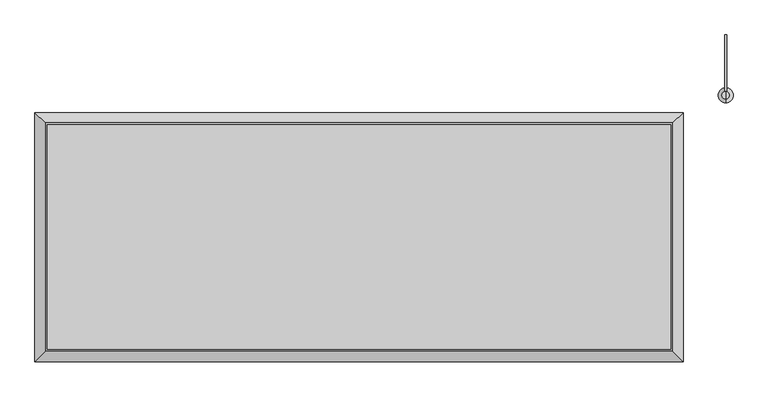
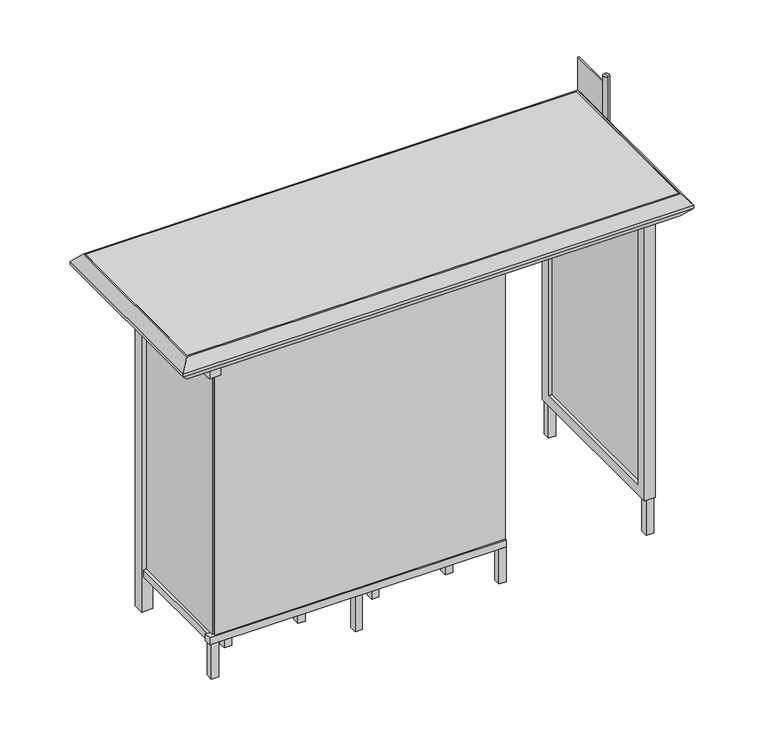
"""IFC4 building model written with IfcOpenShell, lengths in millimetres: geographic element geometry, 1454343723545-Bus stop : 1454343723545-Bus stop."""

from ifc_helpers import new_model, si_unit, point, frame, frame_2d, origin, origin_with_axes, place, context, project, spatial, polyline, circle_curve, trimmed, segment, composite_curve, outline, extrude, faceted_brep, source, transform, mapped, element, save
from ifc_brep_helpers import plane_surface, cylinder_surface, revolved_surface, advanced_brep


def geographic_element_cce4a2fd(model_context):
    return source(origin(), model_context, "Body", "SolidModel", [
        extrude(outline(polyline([(1957.5, 1680.3732439), (1967.5, 1680.3732439), (1967.5, 1380.3732439), (1957.5, 1380.3732439), (1957.5, 1680.3732439)])), frame((0.0, 0.0, 1784.6), z_axis=(0.0, 0.0, 1.0), x_axis=(1.0, 0.0, 0.0)), (0.0, 0.0, 1.0), 450.0),
        advanced_brep(
        [(1962.5, 1398.2604073, 500.0), (1962.5, 1398.2604073, 0.0), (1962.5, 1318.2604073, 0.0), (1962.5, 1318.2604073, 500.0), (1962.5, 1378.2604073, 534.6), (1962.5, 1338.2604073, 534.6), (1962.5, 1378.2604073, 2300.0), (1962.5, 1338.2604073, 2300.0), (1962.5, 1358.2604073, 2300.0), (1962.5, 1358.2604073, 0.0)],
        [
            (0, 1),
            (1, 2, circle_curve(frame((1962.5, 1358.2604073, 0.0), z_axis=(0.0, 0.0, 1.0), x_axis=(0.0, -1.0, 0.0)), 40.0)),
            (2, 3),
            (3, 0, circle_curve(frame((1962.5, 1358.2604073, 500.0), z_axis=(0.0, 0.0, -1.0), x_axis=(0.0, -1.0, 0.0)), 40.0)),
            (2, 1, circle_curve(frame((1962.5, 1358.2604073, 0.0), z_axis=(0.0, 0.0, 1.0), x_axis=(0.0, -1.0, 0.0)), 40.0)),
            (0, 3, circle_curve(frame((1962.5, 1358.2604073, 500.0), z_axis=(0.0, 0.0, -1.0), x_axis=(0.0, -1.0, 0.0)), 40.0)),
            (4, 0),
            (3, 5),
            (5, 4, circle_curve(frame((1962.5, 1358.2604073, 534.6), z_axis=(0.0, 0.0, -1.0), x_axis=(0.0, -1.0, 0.0)), 20.0)),
            (4, 5, circle_curve(frame((1962.5, 1358.2604073, 534.6), z_axis=(0.0, 0.0, -1.0), x_axis=(0.0, -1.0, 0.0)), 20.0)),
            (6, 4),
            (5, 7),
            (7, 6, circle_curve(frame((1962.5, 1358.2604073, 2300.0), z_axis=(0.0, 0.0, -1.0), x_axis=(0.0, -1.0, 0.0)), 20.0)),
            (6, 7, circle_curve(frame((1962.5, 1358.2604073, 2300.0), z_axis=(0.0, 0.0, -1.0), x_axis=(0.0, -1.0, 0.0)), 20.0)),
            (8, 6),
            (7, 8),
            (1, 9),
            (9, 2),
        ],
        [
            cylinder_surface(frame((1962.5, 1358.2604073, -120.0), z_axis=(0.0, 0.0, 1.0), x_axis=(0.0, -1.0, 0.0)), 40.0),
            revolved_surface(polyline([(1962.5, 1318.2604073, 500.0), (1962.5, 1338.2604073, 534.6)]), (1962.5, 1358.2604073, -120.0), (0.0, 0.0, 1.0)),
            cylinder_surface(frame((1962.5, 1358.2604073, -120.0), z_axis=(0.0, 0.0, 1.0), x_axis=(0.0, -1.0, 0.0)), 20.0),
            plane_surface(frame((1962.5, 1358.2604073, 2300.0), z_axis=(0.0, 0.0, 1.0), x_axis=(0.0, -1.0, 0.0))),
            plane_surface(frame((1962.5, 1358.2604073, 0.0), z_axis=(0.0, 0.0, -1.0), x_axis=(0.0, -1.0, 0.0))),
        ],
        [
            (0, [[1, 2, 3, 4]]),
            (0, [[-3, 5, -1, 6]]),
            (1, [[7, -4, 8, 9]]),
            (1, [[-8, -6, -7, 10]]),
            (2, [[11, -9, 12, 13]]),
            (2, [[-12, -10, -11, 14]]),
            (3, [[15, -13, 16]]),
            (3, [[-16, -14, -15]]),
            (4, [[17, 18, -2]]),
            (4, [[-18, -17, -5]]),
        ],
    ),
        faceted_brep([(1735.0, -65.0, 2310.0), (1735.0, 1265.0, 2310.0), (1680.0, 1210.0, 2380.0), (1680.0, -10.0, 2380.0), (1735.0, -65.0, 2290.0), (1735.0, 1265.0, 2290.0), (1680.0, -10.0, 2220.0), (1680.0, 1210.0, 2220.0), (1670.0, 0.0, 2380.0), (1670.0, 1200.0, 2380.0), (1670.0, 1200.0, 2220.0), (1670.0, 0.0, 2220.0), (-1727.5, 1265.0, 2310.0), (-1672.5, 1210.0, 2380.0), (-1727.5, 1265.0, 2290.0), (-1672.5, 1210.0, 2220.0), (-1662.5, 1200.0, 2380.0), (-1662.5, 1200.0, 2220.0), (-1727.5, -65.0, 2310.0), (-1672.5, -10.0, 2380.0), (-1727.5, -65.0, 2290.0), (-1672.5, -10.0, 2220.0), (-1662.5, 0.0, 2380.0), (-1662.5, 0.0, 2220.0)], [[[0, 1, 2, 3]], [[4, 5, 1, 0]], [[6, 7, 5, 4]], [[8, 9, 10, 11]], [[1, 12, 13, 2]], [[5, 14, 12, 1]], [[7, 15, 14, 5]], [[9, 16, 17, 10]], [[12, 18, 19, 13]], [[14, 20, 18, 12]], [[15, 21, 20, 14]], [[16, 22, 23, 17]], [[18, 0, 3, 19]], [[20, 4, 0, 18]], [[21, 6, 4, 20]], [[7, 6, 21, 15], [11, 10, 17, 23]], [[22, 8, 11, 23]], [[3, 2, 13, 19], [9, 8, 22, 16]]]),
        extrude(outline(polyline([(-1662.5, 1200.0), (1670.0, 1200.0), (1670.0, 0.0), (-1662.5, 0.0), (-1662.5, 1200.0)])), frame((0.0, 0.0, 2220.0), z_axis=(0.0, 0.0, 1.0), x_axis=(1.0, 0.0, 0.0)), (0.0, 0.0, 1.0), 160.0),
        extrude(outline(polyline([(1490.0, 50.0), (1480.0, 50.0), (1480.0, 1150.0), (1490.0, 1150.0), (1490.0, 50.0)])), frame((0.0, 0.0, 300.0), z_axis=(0.0, 0.0, 1.0), x_axis=(1.0, 0.0, 0.0)), (0.0, 0.0, 1.0), 1870.0),
        extrude(outline(polyline([(1460.0, 1150.0), (1470.0, 1150.0), (1470.0, 50.0), (1460.0, 50.0), (1460.0, 1150.0)])), frame((0.0, 0.0, 300.0), z_axis=(0.0, 0.0, 1.0), x_axis=(1.0, 0.0, 0.0)), (0.0, 0.0, 1.0), 1870.0),
        faceted_brep([(1512.5, 0.0, 250.0), (1512.5, 0.0, 2220.0), (1437.5, 0.0, 2220.0), (1437.5, 0.0, 250.0), (1487.5, 75.0, 325.0), (1487.5, 75.0, 2145.0), (1512.5, 75.0, 2145.0), (1512.5, 75.0, 325.0), (1462.5, 50.0, 300.0), (1462.5, 50.0, 2170.0), (1487.5, 50.0, 2170.0), (1487.5, 50.0, 300.0), (1437.5, 75.0, 325.0), (1437.5, 75.0, 2145.0), (1462.5, 75.0, 2145.0), (1462.5, 75.0, 325.0), (1512.5, 1200.0, 2220.0), (1437.5, 1200.0, 2220.0), (1487.5, 1125.0, 2145.0), (1512.5, 1125.0, 2145.0), (1462.5, 1150.0, 2170.0), (1487.5, 1150.0, 2170.0), (1437.5, 1125.0, 2145.0), (1462.5, 1125.0, 2145.0), (1512.5, 1200.0, 250.0), (1437.5, 1200.0, 250.0), (1487.5, 1125.0, 325.0), (1512.5, 1125.0, 325.0), (1462.5, 1150.0, 300.0), (1487.5, 1150.0, 300.0), (1437.5, 1125.0, 325.0), (1462.5, 1125.0, 325.0)], [[[0, 1, 2, 3]], [[4, 5, 6, 7]], [[8, 9, 10, 11]], [[12, 13, 14, 15]], [[1, 16, 17, 2]], [[5, 18, 19, 6]], [[9, 20, 21, 10]], [[13, 22, 23, 14]], [[16, 24, 25, 17]], [[18, 26, 27, 19]], [[20, 28, 29, 21]], [[22, 30, 31, 23]], [[24, 0, 3, 25]], [[1, 0, 24, 16], [7, 6, 19, 27]], [[26, 4, 7, 27]], [[11, 10, 21, 29], [5, 4, 26, 18]], [[28, 8, 11, 29]], [[9, 8, 28, 20], [15, 14, 23, 31]], [[30, 12, 15, 31]], [[3, 2, 17, 25], [13, 12, 30, 22]]]),
        extrude(outline(polyline([(500.0, 20.0), (500.0, 10.0), (-1470.0, 10.0), (-1470.0, 20.0), (500.0, 20.0)])), frame((0.0, 0.0, 300.0), z_axis=(0.0, 0.0, 1.0), x_axis=(1.0, 0.0, 0.0)), (0.0, 0.0, 1.0), 1920.0),
        extrude(outline(polyline([(800.0, 300.0), (25.0, 300.0), (25.0, 2158.125), (800.0, 2100.0), (800.0, 300.0)])), frame((-1480.0, 0.0, 0.0), z_axis=(1.0, 0.0, 0.0), x_axis=(0.0, 1.0, 0.0)), (0.0, 0.0, 1.0), 10.0),
        extrude(outline(composite_curve([segment(polyline([(171.5367578, 470.0), (376.5367578, 470.0)]), True, "CONTINUOUS"), segment(trimmed(circle_curve(frame_2d((376.5367578, 455.0723822)), 14.9276178), [point((376.5367578, 470.0))], [point((376.5367578, 440.1447644))], False, "CARTESIAN"), True, "CONTINUOUS"), segment(polyline([(376.5367578, 440.1447644), (171.5367578, 403.9977334)]), True, "CONTINUOUS"), segment(trimmed(circle_curve(frame_2d((171.5367578, 436.9988667)), 33.0011333), [point((171.5367578, 403.9977334))], [point((171.5367578, 470.0))], False, "CARTESIAN"), True, "CONTINUOUS")], self_intersect=False)), frame((-225.0, 0.0, 0.0), z_axis=(1.0, 0.0, 0.0), x_axis=(0.0, 1.0, 0.0)), (0.0, 0.0, 1.0), 450.0),
        extrude(outline(composite_curve([segment(polyline([(171.5367578, 470.0), (376.5367578, 470.0)]), True, "CONTINUOUS"), segment(trimmed(circle_curve(frame_2d((376.5367578, 455.0723822)), 14.9276178), [point((376.5367578, 470.0))], [point((376.5367578, 440.1447644))], False, "CARTESIAN"), True, "CONTINUOUS"), segment(polyline([(376.5367578, 440.1447644), (171.5367578, 403.9977334)]), True, "CONTINUOUS"), segment(trimmed(circle_curve(frame_2d((171.5367578, 436.9988667)), 33.0011333), [point((171.5367578, 403.9977334))], [point((171.5367578, 470.0))], False, "CARTESIAN"), True, "CONTINUOUS")], self_intersect=False)), frame((-725.0, 0.0, 0.0), z_axis=(1.0, 0.0, 0.0), x_axis=(0.0, 1.0, 0.0)), (0.0, 0.0, 1.0), 450.0),
        extrude(outline(composite_curve([segment(polyline([(173.0011333, 470.0), (378.0011333, 470.0)]), True, "CONTINUOUS"), segment(trimmed(circle_curve(frame_2d((378.0011333, 455.0723822)), 14.9276178), [point((378.0011333, 470.0))], [point((378.0011333, 440.1447644))], False, "CARTESIAN"), True, "CONTINUOUS"), segment(polyline([(378.0011333, 440.1447644), (173.0011333, 403.9977334)]), True, "CONTINUOUS"), segment(trimmed(circle_curve(frame_2d((173.0011333, 436.9988667)), 33.0011333), [point((173.0011333, 403.9977334))], [point((173.0011333, 470.0))], False, "CARTESIAN"), True, "CONTINUOUS")], self_intersect=False)), frame((-1225.0, 0.0, 0.0), z_axis=(1.0, 0.0, 0.0), x_axis=(0.0, 1.0, 0.0)), (0.0, 0.0, 1.0), 450.0),
        extrude(outline(polyline([(1200.0, 2220.0), (1200.0, 2160.0), (875.0, 2100.0), (800.0, 2100.0), (0.0, 2160.0), (0.0, 2220.0), (1200.0, 2220.0)])), frame((-1512.5, 0.0, 0.0), z_axis=(1.0, 0.0, 0.0), x_axis=(0.0, 1.0, 0.0)), (0.0, 0.0, 1.0), 75.0),
        extrude(outline(polyline([(-1437.5, 800.0), (-1512.5, 800.0), (-1512.5, 875.0), (-1437.5, 875.0), (-1437.5, 800.0)])), origin_with_axes(), (0.0, 0.0, 1.0), 2100.0),
        extrude(outline(polyline([(-1500.0, 50.0), (-1500.0, 800.0), (-1450.0, 800.0), (-1450.0, 50.0), (-1500.0, 50.0)])), frame((0.0, 0.0, 250.0), z_axis=(0.0, 0.0, 1.0), x_axis=(1.0, 0.0, 0.0)), (0.0, 0.0, 1.0), 50.0),
        extrude(outline(polyline([(500.0, 0.0), (-1512.5, 0.0), (-1512.5, 50.0), (500.0, 50.0), (500.0, 0.0)])), frame((0.0, 0.0, 250.0), z_axis=(0.0, 0.0, 1.0), x_axis=(1.0, 0.0, 0.0)), (0.0, 0.0, 1.0), 50.0),
        extrude(outline(polyline([(275.0, 240.0), (225.0, 240.0), (225.0, 290.0), (275.0, 290.0), (275.0, 240.0)])), origin_with_axes(), (0.0, 0.0, 1.0), 500.0),
        extrude(outline(polyline([(-225.0, 240.0), (-275.0, 240.0), (-275.0, 290.0), (-225.0, 290.0), (-225.0, 240.0)])), origin_with_axes(), (0.0, 0.0, 1.0), 500.0),
        extrude(outline(polyline([(-725.0, 240.0), (-775.0, 240.0), (-775.0, 290.0), (-725.0, 290.0), (-725.0, 240.0)])), origin_with_axes(), (0.0, 0.0, 1.0), 500.0),
        extrude(outline(polyline([(-1225.0, 240.0), (-1275.0, 240.0), (-1275.0, 290.0), (-1225.0, 290.0), (-1225.0, 240.0)])), origin_with_axes(), (0.0, 0.0, 1.0), 500.0),
        extrude(outline(polyline([(1500.0, 1150.0), (1450.0, 1150.0), (1450.0, 1200.0), (1500.0, 1200.0), (1500.0, 1150.0)])), origin_with_axes(), (0.0, 0.0, 1.0), 250.0),
        extrude(outline(polyline([(1500.0, 0.0), (1450.0, 0.0), (1450.0, 50.0), (1500.0, 50.0), (1500.0, 0.0)])), origin_with_axes(), (0.0, 0.0, 1.0), 250.0),
        extrude(outline(polyline([(500.0, 0.0), (450.0, 0.0), (450.0, 50.0), (500.0, 50.0), (500.0, 0.0)])), origin_with_axes(), (0.0, 0.0, 1.0), 250.0),
        extrude(outline(polyline([(-475.0, 0.0), (-525.0, 0.0), (-525.0, 50.0), (-475.0, 50.0), (-475.0, 0.0)])), origin_with_axes(), (0.0, 0.0, 1.0), 250.0),
        extrude(outline(polyline([(-1450.0, 0.0), (-1500.0, 0.0), (-1500.0, 50.0), (-1450.0, 50.0), (-1450.0, 0.0)])), origin_with_axes(), (0.0, 0.0, 1.0), 250.0),
    ])


if __name__ == "__main__":
    model = new_model("IFC4")
    model_context = context("Model", 3, world=origin())
    ifc_project = project(units=[si_unit("LENGTHUNIT", "METRE", prefix="MILLI")], contexts=[model_context])
    site = spatial("IfcSite", under=ifc_project)
    building = spatial("IfcBuilding", under=site)
    placement = place(None, origin())
    geographic_element_shape = geographic_element_cce4a2fd(model_context)
    element("IfcGeographicElement", 1, ObjectType="1454343723545-Bus stop : 1454343723545-Bus stop", at=placement, inside=building, context=model_context, shape_type="MappedRepresentation", body=[
        mapped(geographic_element_shape, transform((0.0, 0.0, 0.0), x_axis=(1.0, 0.0, 0.0), y_axis=(0.0, 1.0, 0.0), z_axis=(0.0, 0.0, 1.0))),
    ])
    save(model, "model.ifc")
